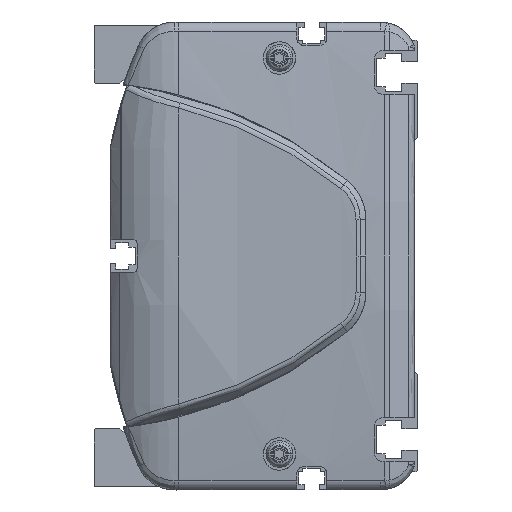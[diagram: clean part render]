
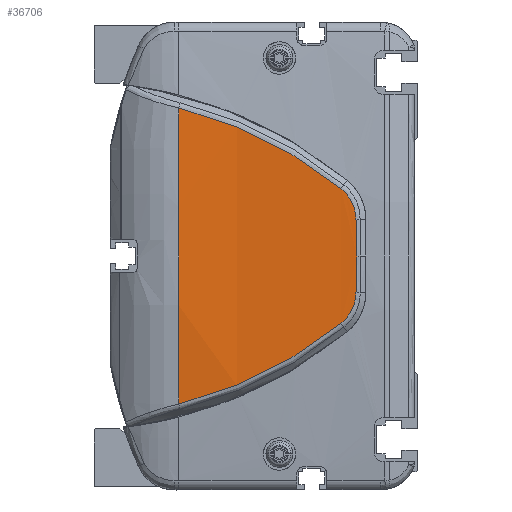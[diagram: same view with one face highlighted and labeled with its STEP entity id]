
A CAD part, left-side view. The second image highlights one B-rep face of the part: STEP entity #36706.
In plain terms, the highlighted cylindrical face has radius 500 mm (diameter 1000 mm), a partial arc.
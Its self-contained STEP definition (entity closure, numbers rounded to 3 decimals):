
#32854=CARTESIAN_POINT('',(486.,66.362,0.));
#32855=DIRECTION('',(0.,-1.,0.));
#32856=DIRECTION('',(-0.997,0.,0.082));
#32857=AXIS2_PLACEMENT_3D('',#32854,#32855,#32856);
#33751=CARTESIAN_POINT('',(-13.648,21.313,
-18.759));
#33752=CARTESIAN_POINT('',(-13.449,27.904,
-24.058));
#33753=CARTESIAN_POINT('',(-12.934,42.195,
-33.27));
#33754=CARTESIAN_POINT('',(-12.471,58.156,
-39.127));
#33755=CARTESIAN_POINT('',(-12.306,66.362,
-41.121));
#33757=CARTESIAN_POINT('',(-12.306,66.362,
41.121));
#33758=CARTESIAN_POINT('',(-12.471,58.156,
39.127));
#33759=CARTESIAN_POINT('',(-12.934,42.195,
33.27));
#33760=CARTESIAN_POINT('',(-13.449,27.904,
24.058));
#33761=CARTESIAN_POINT('',(-13.648,21.313,
18.759));
#33763=CARTESIAN_POINT('',(-13.648,21.313,
18.759));
#33764=CARTESIAN_POINT('',(-13.686,20.035,
17.736));
#33765=CARTESIAN_POINT('',(-13.779,17.936,
15.107));
#33766=CARTESIAN_POINT('',(-13.863,17.152,
11.827));
#33767=CARTESIAN_POINT('',(-13.896,17.124,
10.178));
#33769=CARTESIAN_POINT('',(-13.896,17.124,
10.178));
#33770=CARTESIAN_POINT('',(-13.92,17.107,
9.023));
#33771=CARTESIAN_POINT('',(-13.959,17.067,
6.729));
#33772=CARTESIAN_POINT('',(-13.993,16.979,
3.335));
#33773=CARTESIAN_POINT('',(-14.,16.898,
1.106));
#33774=CARTESIAN_POINT('',(-14.,16.849,
0.));
#33776=CARTESIAN_POINT('',(-14.,16.849,
0.));
#33777=CARTESIAN_POINT('',(-14.,16.898,
-1.106));
#33778=CARTESIAN_POINT('',(-13.993,16.979,
-3.335));
#33779=CARTESIAN_POINT('',(-13.959,17.067,
-6.729));
#33780=CARTESIAN_POINT('',(-13.92,17.107,
-9.025));
#33781=CARTESIAN_POINT('',(-13.896,17.124,
-10.18));
#33783=CARTESIAN_POINT('',(-13.896,17.124,
-10.18));
#33784=CARTESIAN_POINT('',(-13.863,17.152,
-11.828));
#33785=CARTESIAN_POINT('',(-13.779,17.937,
-15.109));
#33786=CARTESIAN_POINT('',(-13.686,20.035,
-17.736));
#33787=CARTESIAN_POINT('',(-13.648,21.313,
-18.759));
#34469=VERTEX_POINT('',#33751);
#34470=VERTEX_POINT('',#33755);
#34471=CARTESIAN_POINT('',(-12.306,66.362,
41.121));
#34472=VERTEX_POINT('',#34471);
#34473=VERTEX_POINT('',#33761);
#34474=VERTEX_POINT('',#33767);
#34475=VERTEX_POINT('',#33774);
#34476=VERTEX_POINT('',#33781);
#36687=CARTESIAN_POINT('',(486.,8.006,0.));
#36688=DIRECTION('',(0.,1.,0.));
#36689=DIRECTION('',(1.,0.,0.));
#36690=AXIS2_PLACEMENT_3D('',#36687,#36688,#36689);
#36691=CYLINDRICAL_SURFACE('',#36690,500.);
#36693=ORIENTED_EDGE('',*,*,#36692,.T.);
#36694=ORIENTED_EDGE('',*,*,#35327,.F.);
#36696=ORIENTED_EDGE('',*,*,#36695,.T.);
#36698=ORIENTED_EDGE('',*,*,#36697,.T.);
#36700=ORIENTED_EDGE('',*,*,#36699,.T.);
#36702=ORIENTED_EDGE('',*,*,#36701,.T.);
#36703=ORIENTED_EDGE('',*,*,#36677,.T.);
#36704=EDGE_LOOP('',(#36693,#36694,#36696,#36698,#36700,#36702,#36703));
#36705=FACE_OUTER_BOUND('',#36704,.F.);
#36706=ADVANCED_FACE('',(#36705),#36691,.T.);
#32858=CIRCLE('',#32857,500.);
#33756=B_SPLINE_CURVE_WITH_KNOTS('',3,(#33751,#33752,#33753,#33754,#33755),
.UNSPECIFIED.,.F.,.F.,(4,1,4),(0.,0.5,1.),.UNSPECIFIED.);
#33762=B_SPLINE_CURVE_WITH_KNOTS('',3,(#33757,#33758,#33759,#33760,#33761),
.UNSPECIFIED.,.F.,.F.,(4,1,4),(0.,0.5,1.),.UNSPECIFIED.);
#33768=B_SPLINE_CURVE_WITH_KNOTS('',3,(#33763,#33764,#33765,#33766,#33767),
.UNSPECIFIED.,.F.,.F.,(4,1,4),(0.,0.5,1.),.UNSPECIFIED.);
#33775=B_SPLINE_CURVE_WITH_KNOTS('',3,(#33769,#33770,#33771,#33772,#33773,
#33774),.UNSPECIFIED.,.F.,.F.,(4,1,1,4),(0.,0.333,
0.667,1.),.UNSPECIFIED.);
#33782=B_SPLINE_CURVE_WITH_KNOTS('',3,(#33776,#33777,#33778,#33779,#33780,
#33781),.UNSPECIFIED.,.F.,.F.,(4,1,1,4),(0.,0.333,
0.667,1.),.UNSPECIFIED.);
#33788=B_SPLINE_CURVE_WITH_KNOTS('',3,(#33783,#33784,#33785,#33786,#33787),
.UNSPECIFIED.,.F.,.F.,(4,1,4),(0.,0.5,1.),.UNSPECIFIED.);
#35327=EDGE_CURVE('',#34472,#34470,#32858,.T.);
#36677=EDGE_CURVE('',#34476,#34469,#33788,.T.);
#36692=EDGE_CURVE('',#34469,#34470,#33756,.T.);
#36695=EDGE_CURVE('',#34472,#34473,#33762,.T.);
#36697=EDGE_CURVE('',#34473,#34474,#33768,.T.);
#36699=EDGE_CURVE('',#34474,#34475,#33775,.T.);
#36701=EDGE_CURVE('',#34475,#34476,#33782,.T.);
